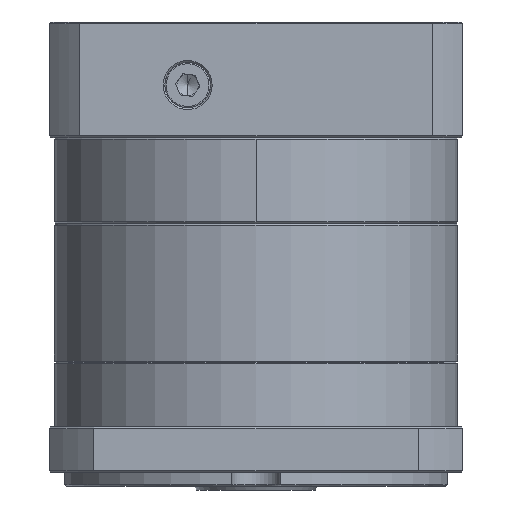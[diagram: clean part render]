
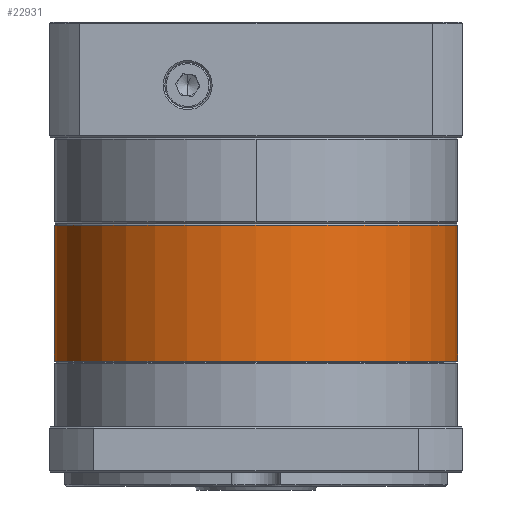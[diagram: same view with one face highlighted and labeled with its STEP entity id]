
A CAD part, front view. The second image highlights one B-rep face of the part: STEP entity #22931.
In plain terms, the highlighted cylindrical face has radius 57.5 mm (diameter 115 mm), a partial arc.
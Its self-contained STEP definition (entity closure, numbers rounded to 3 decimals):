
#4911 = EDGE_CURVE ( 'NONE', #31611, #107645, #21037, .T. ) ;
#9296 = DIRECTION ( 'NONE',  ( 0., 0., 1. ) ) ;
#13808 = CARTESIAN_POINT ( 'NONE',  ( 127.259, 44.19, -59.459 ) ) ;
#18541 = ORIENTED_EDGE ( 'NONE', *, *, #69737, .F. ) ;
#19239 = DIRECTION ( 'NONE',  ( -1., 0., 0. ) ) ;
#21037 = LINE ( 'NONE', #59333, #122517 ) ;
#22931 = ADVANCED_FACE ( 'NONE', ( #108158 ), #52691, .T. ) ;
#28611 = CARTESIAN_POINT ( 'NONE',  ( 12.259, 44.19, -59.959 ) ) ;
#29676 = CARTESIAN_POINT ( 'NONE',  ( 12.259, 44.19, -98.67 ) ) ;
#31611 = VERTEX_POINT ( 'NONE', #28611 ) ;
#34221 = AXIS2_PLACEMENT_3D ( 'NONE', #98179, #9296, #19239 ) ;
#40028 = CIRCLE ( 'NONE', #72070, 57.5 ) ;
#44345 = ORIENTED_EDGE ( 'NONE', *, *, #4911, .T. ) ;
#44560 = DIRECTION ( 'NONE',  ( -1., 0., 0. ) ) ;
#50183 = VERTEX_POINT ( 'NONE', #108264 ) ;
#52691 = CYLINDRICAL_SURFACE ( 'NONE', #72167, 57.5 ) ;
#58729 = ORIENTED_EDGE ( 'NONE', *, *, #118895, .F. ) ;
#59333 = CARTESIAN_POINT ( 'NONE',  ( 12.259, 44.19, -59.459 ) ) ;
#63538 = DIRECTION ( 'NONE',  ( -1., 0., 0. ) ) ;
#69657 = VERTEX_POINT ( 'NONE', #95348 ) ;
#69737 = EDGE_CURVE ( 'NONE', #31611, #69657, #95593, .T. ) ;
#72070 = AXIS2_PLACEMENT_3D ( 'NONE', #112546, #121565, #63538 ) ;
#72167 = AXIS2_PLACEMENT_3D ( 'NONE', #74207, #124498, #44560 ) ;
#73974 = EDGE_LOOP ( 'NONE', ( #58729, #18541, #44345, #92063 ) ) ;
#74207 = CARTESIAN_POINT ( 'NONE',  ( 69.759, 44.19, -59.459 ) ) ;
#82525 = DIRECTION ( 'NONE',  ( 0., 0., -1. ) ) ;
#92063 = ORIENTED_EDGE ( 'NONE', *, *, #97593, .T. ) ;
#95272 = VECTOR ( 'NONE', #82525, 1000. ) ;
#95348 = CARTESIAN_POINT ( 'NONE',  ( 127.259, 44.19, -59.959 ) ) ;
#95593 = CIRCLE ( 'NONE', #34221, 57.5 ) ;
#97546 = DIRECTION ( 'NONE',  ( 0., 0., -1. ) ) ;
#97593 = EDGE_CURVE ( 'NONE', #107645, #50183, #40028, .T. ) ;
#98179 = CARTESIAN_POINT ( 'NONE',  ( 69.759, 44.19, -59.959 ) ) ;
#98370 = LINE ( 'NONE', #13808, #95272 ) ;
#107645 = VERTEX_POINT ( 'NONE', #29676 ) ;
#108158 = FACE_OUTER_BOUND ( 'NONE', #73974, .T. ) ;
#108264 = CARTESIAN_POINT ( 'NONE',  ( 127.259, 44.19, -98.67 ) ) ;
#112546 = CARTESIAN_POINT ( 'NONE',  ( 69.759, 44.19, -98.67 ) ) ;
#118895 = EDGE_CURVE ( 'NONE', #69657, #50183, #98370, .T. ) ;
#121565 = DIRECTION ( 'NONE',  ( 0., 0., 1. ) ) ;
#122517 = VECTOR ( 'NONE', #97546, 1000. ) ;
#124498 = DIRECTION ( 'NONE',  ( 0., 0., -1. ) ) ;
